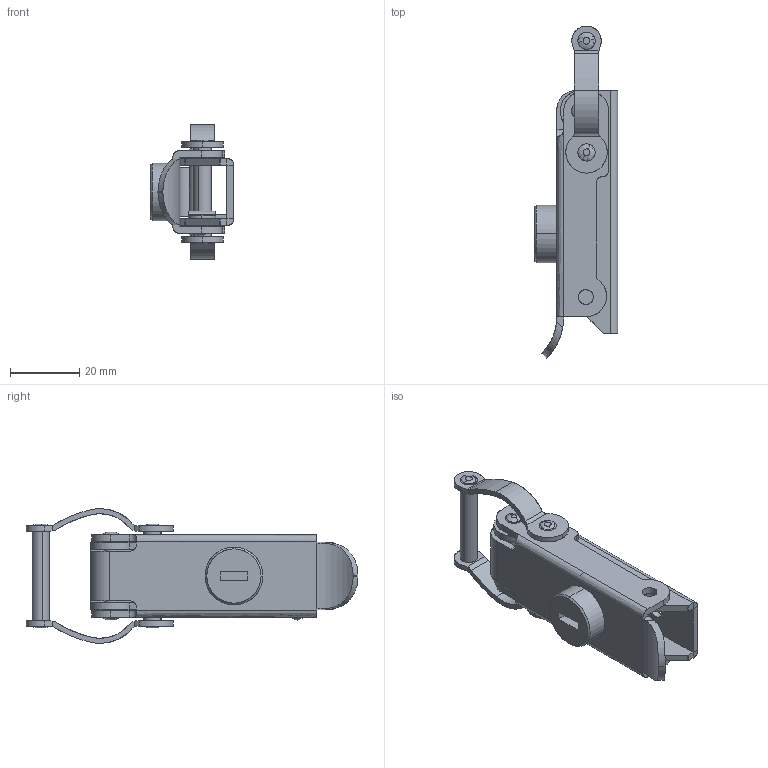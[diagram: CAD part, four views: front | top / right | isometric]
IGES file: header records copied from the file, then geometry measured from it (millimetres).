
Start section: SolidWorks IGES file using analytic representation for surfaces
Global section: file name: C:\Users\cbrechard\Desktop\GE 1036.IGS; native system: SolidWorks 2017; preprocessor: SolidWorks 2017; author: cbrechard; date: 190909.143941; units: millimetre
Bounding box: 24.1 x 96.11 x 38.97 mm (x, y, z)
Surface area: 17475.6 mm2 (no closed solid volume)
Topology: 0 solids, 0 shells, 274 faces, 4210 edges, 4179 vertices
Faces by surface type: revolution 154, bspline 120
